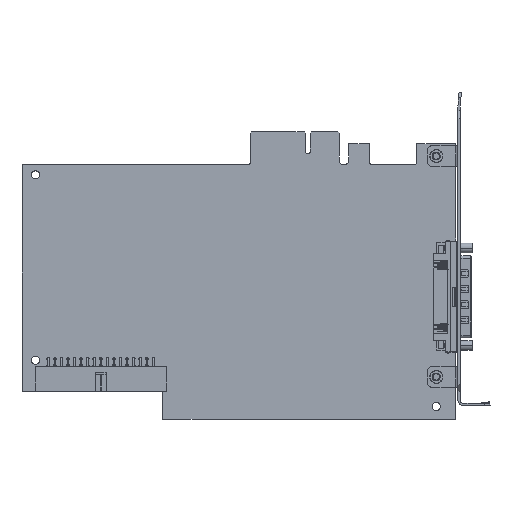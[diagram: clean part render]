
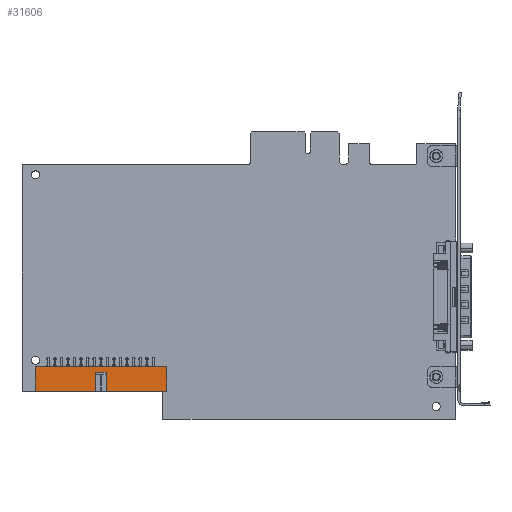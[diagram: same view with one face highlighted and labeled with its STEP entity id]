
A CAD part, top view. The second image highlights one B-rep face of the part: STEP entity #31606.
In plain terms, the highlighted planar face has unit normal (0, 0, 1).
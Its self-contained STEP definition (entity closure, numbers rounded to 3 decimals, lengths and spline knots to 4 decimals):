
#1989=DIRECTION('',(0.,1.,0.));
#1990=VECTOR('',#1989,0.37);
#1991=CARTESIAN_POINT('',(-6.4,-3.769,0.4025));
#1992=LINE('',#1991,#1990);
#4997=DIRECTION('',(0.,-1.,0.));
#4998=VECTOR('',#4997,0.29);
#4999=CARTESIAN_POINT('',(-5.32,-3.479,0.4025));
#5000=LINE('',#4999,#4998);
#5001=DIRECTION('',(1.,0.,0.));
#5002=VECTOR('',#5001,0.92);
#5003=CARTESIAN_POINT('',(-6.4,-3.769,0.4025));
#5004=LINE('',#5003,#5002);
#5005=DIRECTION('',(-1.,0.,0.));
#5006=VECTOR('',#5005,2.);
#5007=CARTESIAN_POINT('',(-4.4,-3.399,0.4025));
#5008=LINE('',#5007,#5006);
#5009=DIRECTION('',(0.,1.,0.));
#5010=VECTOR('',#5009,0.37);
#5011=CARTESIAN_POINT('',(-4.4,-3.769,0.4025));
#5012=LINE('',#5011,#5010);
#5013=DIRECTION('',(1.,0.,0.));
#5014=VECTOR('',#5013,0.92);
#5015=CARTESIAN_POINT('',(-5.32,-3.769,0.4025));
#5016=LINE('',#5015,#5014);
#5065=DIRECTION('',(0.,1.,0.));
#5066=VECTOR('',#5065,0.29);
#5067=CARTESIAN_POINT('',(-5.48,-3.769,0.4025));
#5068=LINE('',#5067,#5066);
#5081=DIRECTION('',(1.,0.,0.));
#5082=VECTOR('',#5081,0.16);
#5083=CARTESIAN_POINT('',(-5.48,-3.479,0.4025));
#5084=LINE('',#5083,#5082);
#23604=CARTESIAN_POINT('',(-5.32,-3.769,0.4025));
#23606=VERTEX_POINT('',#23604);
#23618=CARTESIAN_POINT('',(-5.48,-3.769,0.4025));
#23619=VERTEX_POINT('',#23618);
#23620=CARTESIAN_POINT('',(-6.4,-3.769,0.4025));
#23621=VERTEX_POINT('',#23620);
#23622=CARTESIAN_POINT('',(-4.4,-3.769,0.4025));
#23623=VERTEX_POINT('',#23622);
#23624=CARTESIAN_POINT('',(-5.32,-3.479,0.4025));
#23625=VERTEX_POINT('',#23624);
#23924=CARTESIAN_POINT('',(-4.4,-3.399,0.4025));
#23925=CARTESIAN_POINT('',(-6.4,-3.399,0.4025));
#23926=VERTEX_POINT('',#23924);
#23927=VERTEX_POINT('',#23925);
#25084=CARTESIAN_POINT('',(-5.48,-3.479,0.4025));
#25085=VERTEX_POINT('',#25084);
#31588=CARTESIAN_POINT('',(-5.4,-3.584,0.4025));
#31589=DIRECTION('',(0.,0.,1.));
#31590=DIRECTION('',(1.,0.,0.));
#31591=AXIS2_PLACEMENT_3D('',#31588,#31589,#31590);
#31592=PLANE('',#31591);
#31594=ORIENTED_EDGE('',*,*,#31593,.F.);
#31596=ORIENTED_EDGE('',*,*,#31595,.F.);
#31598=ORIENTED_EDGE('',*,*,#31597,.F.);
#31599=ORIENTED_EDGE('',*,*,#27115,.F.);
#31600=ORIENTED_EDGE('',*,*,#27152,.T.);
#31601=ORIENTED_EDGE('',*,*,#27165,.F.);
#31602=ORIENTED_EDGE('',*,*,#31582,.F.);
#31603=ORIENTED_EDGE('',*,*,#27131,.F.);
#31604=EDGE_LOOP('',(#31594,#31596,#31598,#31599,#31600,#31601,#31602,#31603));
#31605=FACE_OUTER_BOUND('',#31604,.F.);
#31606=ADVANCED_FACE('',(#31605),#31592,.T.);
#27115=EDGE_CURVE('',#23621,#23619,#5004,.T.);
#27131=EDGE_CURVE('',#23606,#23623,#5016,.T.);
#27152=EDGE_CURVE('',#23621,#23927,#1992,.T.);
#27165=EDGE_CURVE('',#23926,#23927,#5008,.T.);
#31582=EDGE_CURVE('',#23623,#23926,#5012,.T.);
#31593=EDGE_CURVE('',#23625,#23606,#5000,.T.);
#31595=EDGE_CURVE('',#25085,#23625,#5084,.T.);
#31597=EDGE_CURVE('',#23619,#25085,#5068,.T.);
